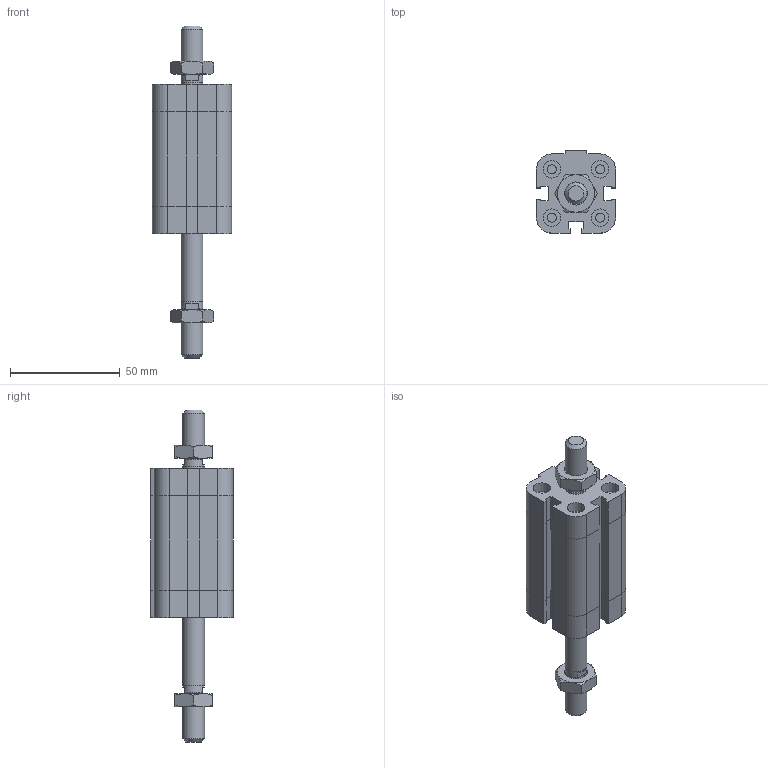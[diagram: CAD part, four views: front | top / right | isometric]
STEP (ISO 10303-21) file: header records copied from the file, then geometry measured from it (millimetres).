
FILE_DESCRIPTION((''),'2;1');
FILE_NAME('I:\Area Tecnica\Disegni\VARIE-3D\Componenti\EUROPE\15##_###_####_04_#\1581_20_0030_04_1.iam.stp','2009-04-20T14:49:52',(''),(''),'Autodesk Inventor 2009','Autodesk Inventor 2009','');
FILE_SCHEMA(('AUTOMOTIVE_DESIGN { 1 0 10303 214 1 1 1 1 }'));
Length unit declared in the file: millimetre
Products named in the file (4): 1581_20_0030_04_1; 1581_20_0030_03_1_C; 1561_20_0030_04_1_S; DBFM10
Assembly tree (4 placements, depth 2):
  1581_20_0030_04_1
    1581_20_0030_03_1_C
    1561_20_0030_04_1_S
    DBFM10  x2
Bounding box: 36 x 37.5 x 151 mm (x, y, z)
Volume: 84330.6 mm3; surface area: 25533.3 mm2
Topology: 4 solids, 4 shells, 222 faces, 483 edges, 289 vertices
Faces by surface type: plane 129, cone 35, bspline 33, cylinder 25
Full cylindrical faces by diameter (mm): 4.134 x4, 7.9 x1, 8 x4, 9.8 x2, 10 x2
Entity records: 5450 total; most frequent: CARTESIAN_POINT 1222, DIRECTION 802, ORIENTED_EDGE 772, EDGE_CURVE 386, AXIS2_PLACEMENT_3D 272, EDGE_LOOP 258, VECTOR 258, LINE 258
